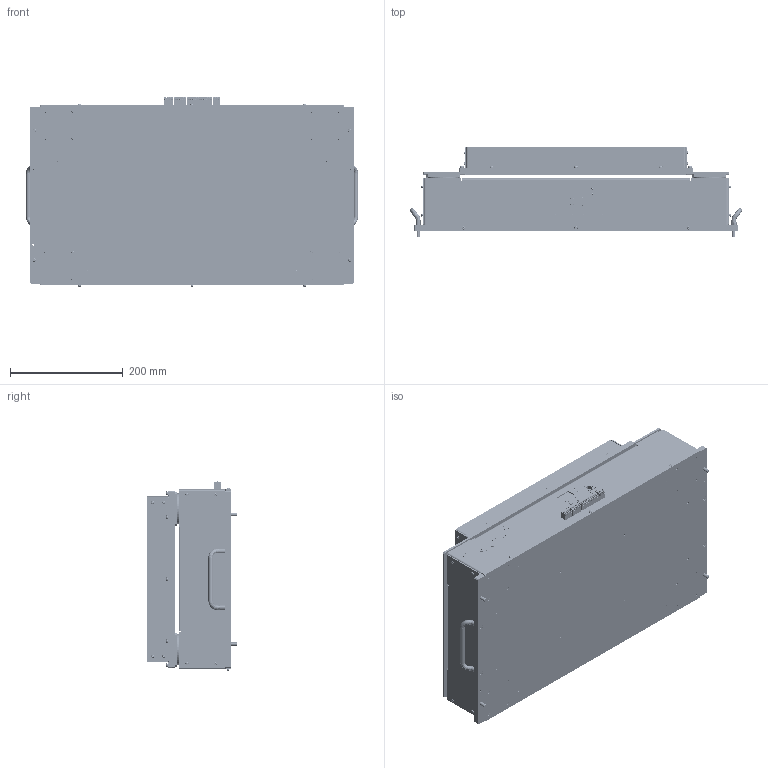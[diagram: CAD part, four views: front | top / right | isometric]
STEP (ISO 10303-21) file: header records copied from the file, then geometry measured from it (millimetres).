
FILE_DESCRIPTION (( 'STEP AP214' ), '1' );
FILE_NAME ('3-124-000091,柔性振散盘,标准,QFF-3929,400盘面,网口版,包装成品.STEP', '2025-07-18T03:03:57', ( '' ), ( '' ), 'SwSTEP 2.0', 'SolidWorks 2017', '' );
FILE_SCHEMA (( 'AUTOMOTIVE_DESIGN' ));
Length unit declared in the file: millimetre
Products named in the file (1): 3-124-000091,柔性振散盘,标准,QFF-3929,400盘面,网口版,包装成品
Bounding box: 589.3 x 159.9 x 335.85 mm (x, y, z)
Volume: 4313469.8 mm3; surface area: 2055738.3 mm2
Topology: 282 solids, 282 shells, 13672 faces, 34491 edges, 22506 vertices
Faces by surface type: plane 8923, bspline 2129, cylinder 1899, cone 429, torus 292
Entity records: 614682 total; most frequent: CARTESIAN_POINT 143154, ORIENTED_EDGE 68810, DIRECTION 57931, EDGE_CURVE 34405, VECTOR 24821, LINE 24821, VERTEX_POINT 22506, AXIS2_PLACEMENT_3D 16555
